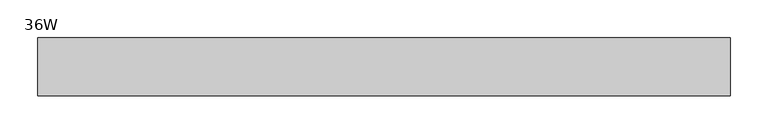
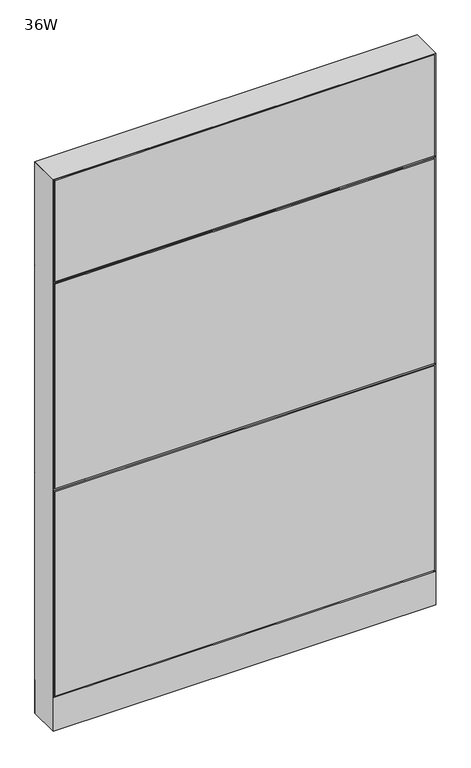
"""IFC4 building model written with IfcOpenShell, lengths in millimetres: furniture geometry, Steelcase - Montage - Frame - 55H - Enhanced Standard - Base Cavity : 36W."""

from ifc_helpers import new_model, si_unit, point, frame, frame_2d, origin, origin_with_axes, place, context, project, spatial, polyline, circle_curve, trimmed, segment, composite_curve, outline, extrude, faceted_brep, source, transform, mapped, element, save


def furniture_36w_db2a7472(model_context):
    return source(origin(), model_context, "Body", "SolidModel", [
        extrude(outline(polyline([(3.175, 31.7500194), (3.175, 38.1000194), (911.225, 38.1000194), (911.225, 31.7500194), (3.175, 31.7500194)])), frame((0.0, 0.0, 92.075), z_axis=(0.0, 0.0, 1.0), x_axis=(1.0, 0.0, 0.0)), (0.0, 0.0, 1.0), 517.525),
        faceted_brep([(-5.4e-06, 38.102627, 612.7750027), (6.3499917, 31.7526299, 619.1249997), (908.0500047, 31.7526299, 619.1249997), (914.4, 38.1026253, 612.7750044), (908.0500047, 31.7526299, 606.4250003), (6.3499917, 31.7526299, 606.4250003)], [[[0, 1, 2, 3]], [[3, 4, 5, 0]], [[1, 5, 4, 2]], [[0, 5, 1]], [[2, 4, 3]]]),
        faceted_brep([(-5.4e-06, 38.102627, 1136.6500027), (6.3499917, 31.7526299, 1142.9999997), (908.0500047, 31.7526299, 1142.9999997), (914.4, 38.1026253, 1136.6500044), (908.0500047, 31.7526299, 1130.3000003), (6.3499917, 31.7526299, 1130.3000003)], [[[0, 1, 2, 3]], [[3, 4, 5, 0]], [[1, 5, 4, 2]], [[0, 5, 1]], [[2, 4, 3]]]),
        extrude(outline(polyline([(3.175, 31.7500194), (3.175, 38.1000194), (911.225, 38.1000194), (911.225, 31.7500194), (3.175, 31.7500194)])), frame((0.0, 0.0, 615.95), z_axis=(0.0, 0.0, 1.0), x_axis=(1.0, 0.0, 0.0)), (0.0, 0.0, 1.0), 517.525),
        extrude(outline(polyline([(3.175, 31.7500194), (3.175, 38.1000194), (911.225, 38.1000194), (911.225, 31.7500194), (3.175, 31.7500194)])), frame((0.0, 0.0, 1139.825), z_axis=(0.0, 0.0, 1.0), x_axis=(1.0, 0.0, 0.0)), (0.0, 0.0, 1.0), 255.5875),
        extrude(outline(polyline([(3.175, -31.7500194), (911.225, -31.7500194), (911.225, -38.1000194), (3.175, -38.1000194), (3.175, -31.7500194)])), frame((0.0, 0.0, 92.075), z_axis=(0.0, 0.0, 1.0), x_axis=(1.0, 0.0, 0.0)), (0.0, 0.0, 1.0), 517.525),
        faceted_brep([(0.0, -38.1026297, 612.775), (914.4, -38.1026297, 612.775), (908.0500047, -31.7526299, 619.1249997), (6.3499917, -31.7526299, 619.1249997), (6.3499917, -31.7526299, 606.4250003), (908.0500047, -31.7526299, 606.4250003)], [[[0, 1, 2, 3]], [[1, 0, 4, 5]], [[3, 2, 5, 4]], [[0, 3, 4]], [[2, 1, 5]]]),
        faceted_brep([(0.0, -38.1026297, 1136.65), (914.4, -38.1026297, 1136.65), (908.0500047, -31.7526299, 1142.9999997), (6.3499917, -31.7526299, 1142.9999997), (6.3499917, -31.7526299, 1130.3000003), (908.0500047, -31.7526299, 1130.3000003)], [[[0, 1, 2, 3]], [[1, 0, 4, 5]], [[3, 2, 5, 4]], [[0, 3, 4]], [[2, 1, 5]]]),
        extrude(outline(polyline([(3.175, -31.7500194), (911.225, -31.7500194), (911.225, -38.1000194), (3.175, -38.1000194), (3.175, -31.7500194)])), frame((0.0, 0.0, 615.95), z_axis=(0.0, 0.0, 1.0), x_axis=(1.0, 0.0, 0.0)), (0.0, 0.0, 1.0), 517.525),
        extrude(outline(polyline([(3.175, -31.7500194), (911.225, -31.7500194), (911.225, -38.1000194), (3.175, -38.1000194), (3.175, -31.7500194)])), frame((0.0, 0.0, 1139.825), z_axis=(0.0, 0.0, 1.0), x_axis=(1.0, 0.0, 0.0)), (0.0, 0.0, 1.0), 255.5875),
        extrude(outline(polyline([(6.350003, -31.7499985), (908.049997, -31.7499985), (914.4, -38.1000015), (0.0, -38.1000015), (6.350003, -31.7499985)])), frame((0.0, 0.0, 4.064), z_axis=(0.0, 0.0, 1.0), x_axis=(1.0, 0.0, 0.0)), (0.0, 0.0, 1.0), 84.835997),
        extrude(outline(polyline([(6.3500002, 31.7500017), (0.0, 38.1000015), (914.4, 38.1000015), (908.0500002, 31.7500017), (6.3500002, 31.7500017)])), frame((0.0, 0.0, 4.064), z_axis=(0.0, 0.0, 1.0), x_axis=(1.0, 0.0, 0.0)), (0.0, 0.0, 1.0), 84.835997),
        faceted_brep([(914.4, -38.1000015, 1398.5875), (0.0, -38.1000015, 1398.5875), (6.3500484, -31.749953, 1392.2374516), (908.0499516, -31.749953, 1392.2374516), (6.3500484, 31.749953, 1392.2374516), (908.0499516, 31.749953, 1392.2374516), (0.0, 38.1000015, 1398.5875), (914.4, 38.1000015, 1398.5875)], [[[0, 1, 2, 3]], [[3, 2, 4, 5]], [[6, 7, 5, 4]], [[1, 0, 7, 6]], [[2, 1, 6, 4]], [[0, 3, 5, 7]]]),
        extrude(outline(composite_curve([segment(trimmed(circle_curve(frame_2d((44.45, 0.0)), 15.24), [point((29.21, 0.0))], [point((59.69, 0.0))], False, "CARTESIAN"), True, "CONTINUOUS"), segment(trimmed(circle_curve(frame_2d((44.45, 0.0)), 15.24), [point((59.69, 0.0))], [point((29.21, 0.0))], False, "CARTESIAN"), True, "CONTINUOUS")], self_intersect=False)), origin_with_axes(), (0.0, 0.0, 1.0), 4.064),
        extrude(outline(composite_curve([segment(trimmed(circle_curve(frame_2d((869.95, 0.0)), 15.24), [point((854.71, 0.0))], [point((885.19, 0.0))], False, "CARTESIAN"), True, "CONTINUOUS"), segment(trimmed(circle_curve(frame_2d((869.95, 0.0)), 15.24), [point((885.19, 0.0))], [point((854.71, 0.0))], False, "CARTESIAN"), True, "CONTINUOUS")], self_intersect=False)), origin_with_axes(), (0.0, 0.0, 1.0), 4.064),
        faceted_brep([(914.4, -38.1000106, 4.064), (914.4, 38.1000015, 4.064), (914.4, 38.1000015, 1398.5875), (914.4, -38.1000106, 1398.5874637), (0.0, 38.1000015, 4.064), (0.0, -38.1000015, 4.064), (0.0, -38.1000015, 1398.5875), (0.0, 38.1000015, 1398.5875), (908.0499879, 31.7500017, 606.425), (6.35, 31.7500017, 606.425), (6.3499998, 31.7500017, 619.125), (908.0499879, 31.7500017, 619.125), (6.35, -31.7499985, 619.125), (908.0499879, -31.7499985, 619.125), (6.350003, -31.7499985, 606.425), (908.0499879, -31.7499985, 606.425), (6.35, 31.7500015, 4.064), (6.35, -31.7500015, 4.064), (908.0499879, 31.7499894, 4.064), (908.0499879, -31.7499985, 4.064), (6.35, 31.7500015, 1392.2375), (6.35, -31.7500015, 1392.2375), (908.0499879, -31.7499985, 1392.2374516), (908.0499879, 31.7499895, 1392.2374516)], [[[0, 1, 2, 3]], [[4, 5, 6, 7]], [[8, 9, 10, 11]], [[11, 10, 12, 13]], [[13, 12, 14, 15]], [[9, 8, 15, 14]], [[16, 17, 5, 4]], [[18, 1, 0, 19]], [[16, 4, 7, 20, 10, 9]], [[5, 17, 14, 12, 21, 6]], [[12, 10, 20, 21]], [[17, 16, 9, 14]], [[11, 13, 22, 23]], [[18, 19, 15, 8]], [[19, 0, 3, 22, 13, 15]], [[1, 18, 8, 11, 23, 2]], [[7, 6, 21, 20]], [[3, 2, 23, 22]]]),
    ])


if __name__ == "__main__":
    model = new_model("IFC4")
    model_context = context("Model", 3, world=origin())
    ifc_project = project(units=[si_unit("LENGTHUNIT", "METRE", prefix="MILLI")], contexts=[model_context])
    site = spatial("IfcSite", under=ifc_project)
    building = spatial("IfcBuilding", under=site)
    placement = place(None, origin())
    furniture_36w_shape = furniture_36w_db2a7472(model_context)
    element("IfcFurniture", 1, ObjectType="Steelcase - Montage - Frame - 55H - Enhanced Standard - Base Cavity : 36W", at=placement, inside=building, context=model_context, shape_type="MappedRepresentation", body=[
        mapped(furniture_36w_shape, transform((0.0, 0.0, 0.0), x_axis=(1.0, 0.0, 0.0), y_axis=(0.0, 1.0, 0.0), z_axis=(0.0, 0.0, 1.0))),
    ])
    save(model, "model.ifc")
